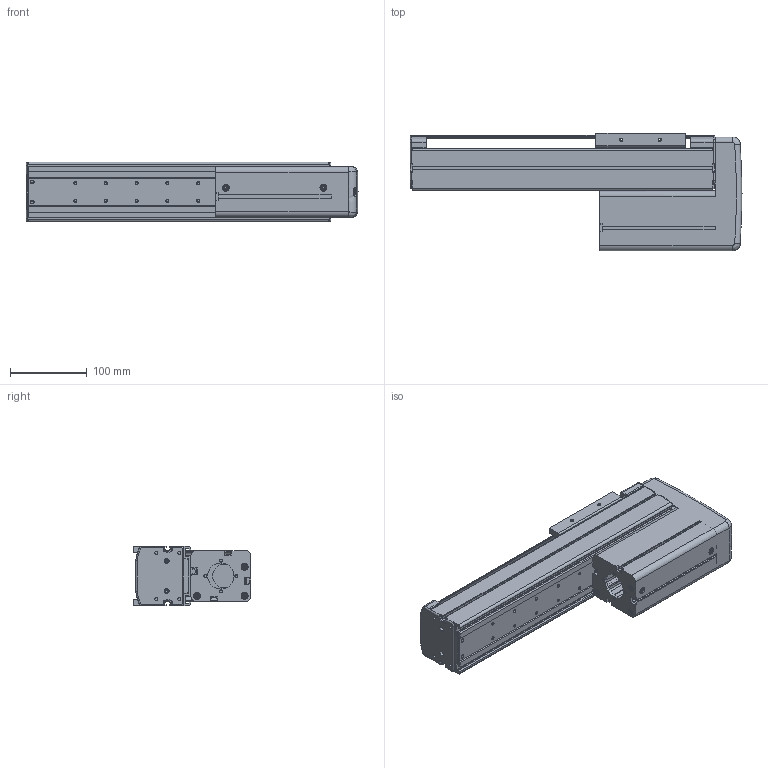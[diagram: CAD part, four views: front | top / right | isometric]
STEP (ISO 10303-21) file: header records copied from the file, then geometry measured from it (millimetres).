
FILE_DESCRIPTION((''),'2;1');
FILE_NAME('BE10E-UU-M_N-20_IGS_PRT','2017-06-17T',(' '),(''),'PRO/ENGINEER BY PARAMETRIC TECHNOLOGY CORPORATION, 2015030','PRO/ENGINEER BY PARAMETRIC TECHNOLOGY CORPORATION, 2015030','');
FILE_SCHEMA(('CONFIG_CONTROL_DESIGN'));
Length unit declared in the file: millimetre
Products named in the file (1): BE10E-UU-M_N-20_IGS_PRT
Bounding box: 432 x 153 x 78 mm (x, y, z)
Volume: 877480.2 mm3; surface area: 571235.3 mm2
Topology: 2 solids, 90 shells, 1696 faces, 4570 edges, 2941 vertices
Faces by surface type: cylinder 773, plane 695, cone 81, torus 71, sphere 44, bspline 32
Entity records: 55249 total; most frequent: CARTESIAN_POINT 11658, DIRECTION 9444, ORIENTED_EDGE 8736, EDGE_CURVE 4536, AXIS2_PLACEMENT_3D 3479, VERTEX_POINT 2941, VECTOR 2486, LINE 2486
